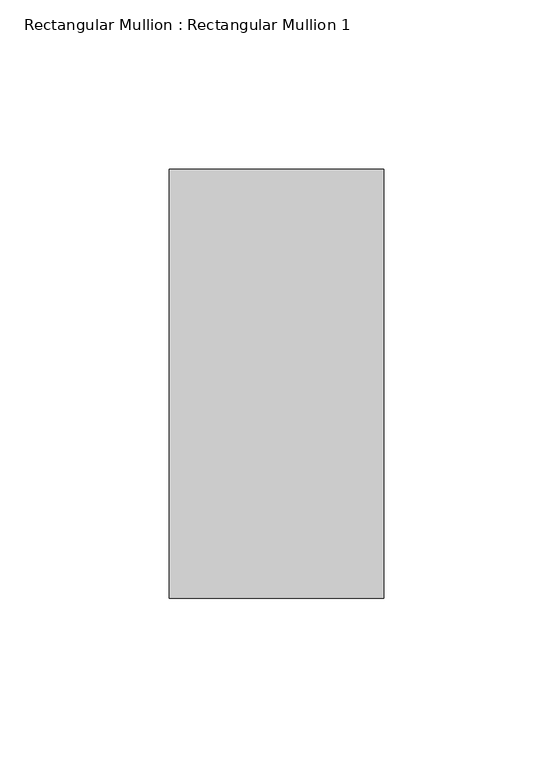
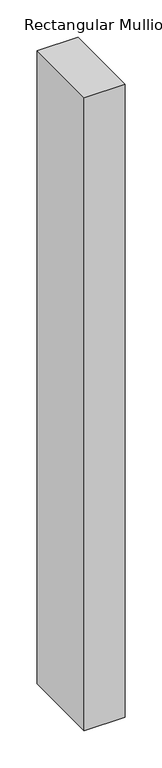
"""IFC4 building model written with IfcOpenShell, lengths in millimetres: member geometry, Rectangular Mullion : Rectangular Mullion 1."""

from ifc_helpers import new_model, si_unit, frame, origin, place, context, project, spatial, polyline, outline, extrude, source, transform, mapped, element, save


def rectangular_mullion_rectangular_mullion_1_714c2959(model_context):
    return source(origin(), model_context, "Body", "SweptSolid", [
        extrude(outline(polyline([(0.0, 63.5), (0.0, -63.5), (-63.5, -63.5), (-63.5, 63.5), (0.0, 63.5)])), frame((0.0, 0.0, -1039.5857143), z_axis=(0.0, 0.0, 1.0), x_axis=(1.0, 0.0, 0.0)), (0.0, 0.0, 1.0), 1039.5857143),
    ])


if __name__ == "__main__":
    model = new_model("IFC4")
    model_context = context("Model", 3, world=origin())
    ifc_project = project(units=[si_unit("LENGTHUNIT", "METRE", prefix="MILLI")], contexts=[model_context])
    site = spatial("IfcSite", under=ifc_project)
    building = spatial("IfcBuilding", under=site)
    placement = place(None, origin())
    rectangular_mullion_rectangular_mullion_1_shape = rectangular_mullion_rectangular_mullion_1_714c2959(model_context)
    element("IfcMember", 1, ObjectType="Rectangular Mullion : Rectangular Mullion 1", at=placement, inside=building, context=model_context, shape_type="MappedRepresentation", body=[
        mapped(rectangular_mullion_rectangular_mullion_1_shape, transform((0.0, 0.0, 0.0), x_axis=(1.0, 0.0, 0.0), y_axis=(0.0, 1.0, 0.0), z_axis=(0.0, 0.0, 1.0))),
    ])
    save(model, "model.ifc")
